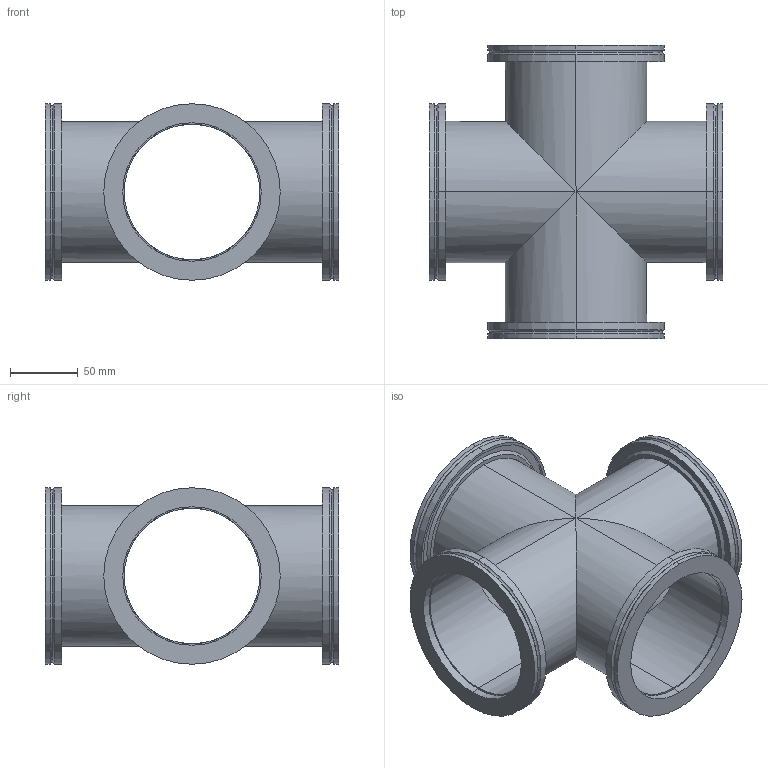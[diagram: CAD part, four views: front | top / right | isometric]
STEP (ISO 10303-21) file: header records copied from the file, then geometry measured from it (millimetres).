
FILE_DESCRIPTION((''),'2;1');
FILE_NAME('W:\212-122.stp','2004-01-08T08:27:45',('KAA'),(''),'Autodesk Inventor (R) 6.0','Autodesk Inventor (R) 6.0','');
FILE_SCHEMA(('CONFIG_CONTROL_DESIGN'));
Length unit declared in the file: millimetre
Products named in the file (1): 212-122
Bounding box: 216 x 216 x 130 mm (x, y, z)
Volume: 386817.4 mm3; surface area: 256980.5 mm2
Topology: 1 solids, 1 shells, 128 faces, 284 edges, 176 vertices
Faces by surface type: cylinder 56, plane 24, bspline 16, torus 16, cone 16
Entity records: 4367 total; most frequent: CARTESIAN_POINT 1293, DIRECTION 722, ORIENTED_EDGE 568, AXIS2_PLACEMENT_3D 325, EDGE_CURVE 284, CIRCLE 204, VERTEX_POINT 176, EDGE_LOOP 152
